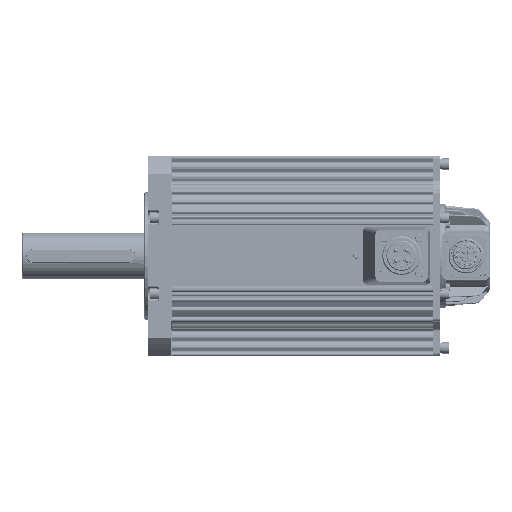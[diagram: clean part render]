
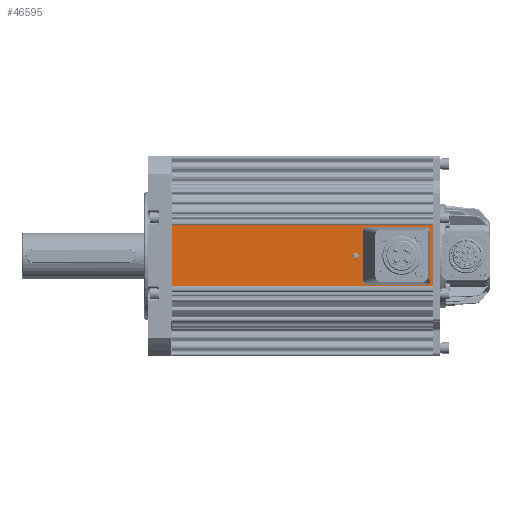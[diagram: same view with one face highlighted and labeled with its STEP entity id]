
A CAD part, top view. The second image highlights one B-rep face of the part: STEP entity #46595.
In plain terms, the highlighted planar face has unit normal (0, 0, 1) as drawn and (0, 1, 0) by its records, which use the part's own axes.
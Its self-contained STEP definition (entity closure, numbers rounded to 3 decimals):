
#32400=DIRECTION('',(-1.,0.,0.));
#32401=VECTOR('',#32400,55.);
#32402=CARTESIAN_POINT('',(27.5,89.,234.3));
#32403=LINE('',#32402,#32401);
#32404=DIRECTION('',(0.,0.,1.));
#32405=VECTOR('',#32404,234.3);
#32406=CARTESIAN_POINT('',(-27.5,89.,0.));
#32407=LINE('',#32406,#32405);
#32408=DIRECTION('',(1.,0.,0.));
#32409=VECTOR('',#32408,55.);
#32410=CARTESIAN_POINT('',(-27.5,89.,0.));
#32411=LINE('',#32410,#32409);
#32412=DIRECTION('',(0.,0.,1.));
#32413=VECTOR('',#32412,234.3);
#32414=CARTESIAN_POINT('',(27.5,89.,0.));
#32415=LINE('',#32414,#32413);
#32416=CARTESIAN_POINT('',(16.,89.,190.3));
#32417=DIRECTION('',(0.,-1.,0.));
#32418=DIRECTION('',(-1.,0.,0.));
#32419=AXIS2_PLACEMENT_3D('',#32416,#32417,#32418);
#32421=CARTESIAN_POINT('',(16.,89.,190.3));
#32422=DIRECTION('',(0.,-1.,0.));
#32423=DIRECTION('',(1.,0.,0.));
#32424=AXIS2_PLACEMENT_3D('',#32421,#32422,#32423);
#32426=CARTESIAN_POINT('',(0.,89.,190.3));
#32427=DIRECTION('',(0.,-1.,0.));
#32428=DIRECTION('',(-1.,0.,0.));
#32429=AXIS2_PLACEMENT_3D('',#32426,#32427,#32428);
#32431=CARTESIAN_POINT('',(0.,89.,190.3));
#32432=DIRECTION('',(0.,-1.,0.));
#32433=DIRECTION('',(1.,0.,0.));
#32434=AXIS2_PLACEMENT_3D('',#32431,#32432,#32433);
#32436=CARTESIAN_POINT('',(-16.,89.,190.3));
#32437=DIRECTION('',(0.,-1.,0.));
#32438=DIRECTION('',(-1.,0.,0.));
#32439=AXIS2_PLACEMENT_3D('',#32436,#32437,#32438);
#32441=CARTESIAN_POINT('',(-16.,89.,190.3));
#32442=DIRECTION('',(0.,-1.,0.));
#32443=DIRECTION('',(1.,0.,0.));
#32444=AXIS2_PLACEMENT_3D('',#32441,#32442,#32443);
#32446=CARTESIAN_POINT('',(0.,89.,210.3));
#32447=DIRECTION('',(0.,-1.,0.));
#32448=DIRECTION('',(0.,0.,1.));
#32449=AXIS2_PLACEMENT_3D('',#32446,#32447,#32448);
#32451=CARTESIAN_POINT('',(0.,89.,210.3));
#32452=DIRECTION('',(0.,-1.,0.));
#32453=DIRECTION('',(0.,0.,-1.));
#32454=AXIS2_PLACEMENT_3D('',#32451,#32452,#32453);
#32456=CARTESIAN_POINT('',(16.,89.,222.3));
#32457=DIRECTION('',(0.,-1.,0.));
#32458=DIRECTION('',(-1.,0.,0.));
#32459=AXIS2_PLACEMENT_3D('',#32456,#32457,#32458);
#32461=CARTESIAN_POINT('',(16.,89.,222.3));
#32462=DIRECTION('',(0.,-1.,0.));
#32463=DIRECTION('',(1.,0.,0.));
#32464=AXIS2_PLACEMENT_3D('',#32461,#32462,#32463);
#32466=CARTESIAN_POINT('',(-16.,89.,222.3));
#32467=DIRECTION('',(0.,-1.,0.));
#32468=DIRECTION('',(-1.,0.,0.));
#32469=AXIS2_PLACEMENT_3D('',#32466,#32467,#32468);
#32471=CARTESIAN_POINT('',(-16.,89.,222.3));
#32472=DIRECTION('',(0.,-1.,0.));
#32473=DIRECTION('',(1.,0.,0.));
#32474=AXIS2_PLACEMENT_3D('',#32471,#32472,#32473);
#32476=CARTESIAN_POINT('',(0.,89.,165.3));
#32477=DIRECTION('',(0.,1.,0.));
#32478=DIRECTION('',(0.,0.,-1.));
#32479=AXIS2_PLACEMENT_3D('',#32476,#32477,#32478);
#32481=CARTESIAN_POINT('',(0.,89.,165.3));
#32482=DIRECTION('',(0.,1.,0.));
#32483=DIRECTION('',(0.,0.,1.));
#32484=AXIS2_PLACEMENT_3D('',#32481,#32482,#32483);
#37337=CARTESIAN_POINT('',(27.5,89.,0.));
#37339=VERTEX_POINT('',#37337);
#37343=CARTESIAN_POINT('',(27.5,89.,234.3));
#37345=VERTEX_POINT('',#37343);
#39456=CARTESIAN_POINT('',(13.75,89.,190.3));
#39457=CARTESIAN_POINT('',(18.25,89.,190.3));
#39458=VERTEX_POINT('',#39456);
#39459=VERTEX_POINT('',#39457);
#39464=CARTESIAN_POINT('',(-2.25,89.,190.3));
#39465=CARTESIAN_POINT('',(2.25,89.,190.3));
#39466=VERTEX_POINT('',#39464);
#39467=VERTEX_POINT('',#39465);
#39472=CARTESIAN_POINT('',(-18.25,89.,190.3));
#39473=CARTESIAN_POINT('',(-13.75,89.,190.3));
#39474=VERTEX_POINT('',#39472);
#39475=VERTEX_POINT('',#39473);
#39480=CARTESIAN_POINT('',(0.,89.,223.8));
#39481=CARTESIAN_POINT('',(0.,89.,196.8));
#39482=VERTEX_POINT('',#39480);
#39483=VERTEX_POINT('',#39481);
#39488=CARTESIAN_POINT('',(13.75,89.,222.3));
#39489=CARTESIAN_POINT('',(18.25,89.,222.3));
#39490=VERTEX_POINT('',#39488);
#39491=VERTEX_POINT('',#39489);
#39496=CARTESIAN_POINT('',(-18.25,89.,222.3));
#39497=CARTESIAN_POINT('',(-13.75,89.,222.3));
#39498=VERTEX_POINT('',#39496);
#39499=VERTEX_POINT('',#39497);
#40020=CARTESIAN_POINT('',(-27.5,89.,0.));
#40021=CARTESIAN_POINT('',(-27.5,89.,234.3));
#40022=VERTEX_POINT('',#40020);
#40023=VERTEX_POINT('',#40021);
#40610=CARTESIAN_POINT('',(0.,89.,162.8));
#40611=CARTESIAN_POINT('',(0.,89.,167.8));
#40612=VERTEX_POINT('',#40610);
#40613=VERTEX_POINT('',#40611);
#46541=CARTESIAN_POINT('',(27.5,89.,0.));
#46542=DIRECTION('',(0.,-1.,0.));
#46543=DIRECTION('',(-1.,0.,0.));
#46544=AXIS2_PLACEMENT_3D('',#46541,#46542,#46543);
#46545=PLANE('',#46544);
#46546=ORIENTED_EDGE('',*,*,#42832,.T.);
#46547=ORIENTED_EDGE('',*,*,#46535,.F.);
#46548=ORIENTED_EDGE('',*,*,#41933,.T.);
#46550=ORIENTED_EDGE('',*,*,#46549,.T.);
#46551=EDGE_LOOP('',(#46546,#46547,#46548,#46550));
#46552=FACE_OUTER_BOUND('',#46551,.F.);
#46554=ORIENTED_EDGE('',*,*,#46553,.F.);
#46556=ORIENTED_EDGE('',*,*,#46555,.F.);
#46557=EDGE_LOOP('',(#46554,#46556));
#46558=FACE_BOUND('',#46557,.F.);
#46560=ORIENTED_EDGE('',*,*,#46559,.F.);
#46562=ORIENTED_EDGE('',*,*,#46561,.F.);
#46563=EDGE_LOOP('',(#46560,#46562));
#46564=FACE_BOUND('',#46563,.F.);
#46566=ORIENTED_EDGE('',*,*,#46565,.F.);
#46568=ORIENTED_EDGE('',*,*,#46567,.F.);
#46569=EDGE_LOOP('',(#46566,#46568));
#46570=FACE_BOUND('',#46569,.F.);
#46572=ORIENTED_EDGE('',*,*,#46571,.F.);
#46574=ORIENTED_EDGE('',*,*,#46573,.F.);
#46575=EDGE_LOOP('',(#46572,#46574));
#46576=FACE_BOUND('',#46575,.F.);
#46578=ORIENTED_EDGE('',*,*,#46577,.F.);
#46580=ORIENTED_EDGE('',*,*,#46579,.F.);
#46581=EDGE_LOOP('',(#46578,#46580));
#46582=FACE_BOUND('',#46581,.F.);
#46584=ORIENTED_EDGE('',*,*,#46583,.F.);
#46586=ORIENTED_EDGE('',*,*,#46585,.F.);
#46587=EDGE_LOOP('',(#46584,#46586));
#46588=FACE_BOUND('',#46587,.F.);
#46590=ORIENTED_EDGE('',*,*,#46589,.T.);
#46592=ORIENTED_EDGE('',*,*,#46591,.T.);
#46593=EDGE_LOOP('',(#46590,#46592));
#46594=FACE_BOUND('',#46593,.F.);
#46595=ADVANCED_FACE('',(#46552,#46558,#46564,#46570,#46576,#46582,#46588,
#46594),#46545,.F.);
#32420=CIRCLE('',#32419,2.25);
#32425=CIRCLE('',#32424,2.25);
#32430=CIRCLE('',#32429,2.25);
#32435=CIRCLE('',#32434,2.25);
#32440=CIRCLE('',#32439,2.25);
#32445=CIRCLE('',#32444,2.25);
#32450=CIRCLE('',#32449,13.5);
#32455=CIRCLE('',#32454,13.5);
#32460=CIRCLE('',#32459,2.25);
#32465=CIRCLE('',#32464,2.25);
#32470=CIRCLE('',#32469,2.25);
#32475=CIRCLE('',#32474,2.25);
#32480=CIRCLE('',#32479,2.5);
#32485=CIRCLE('',#32484,2.5);
#41933=EDGE_CURVE('',#40022,#37339,#32411,.T.);
#42832=EDGE_CURVE('',#37345,#40023,#32403,.T.);
#46535=EDGE_CURVE('',#40022,#40023,#32407,.T.);
#46549=EDGE_CURVE('',#37339,#37345,#32415,.T.);
#46553=EDGE_CURVE('',#39458,#39459,#32420,.T.);
#46555=EDGE_CURVE('',#39459,#39458,#32425,.T.);
#46559=EDGE_CURVE('',#39466,#39467,#32430,.T.);
#46561=EDGE_CURVE('',#39467,#39466,#32435,.T.);
#46565=EDGE_CURVE('',#39474,#39475,#32440,.T.);
#46567=EDGE_CURVE('',#39475,#39474,#32445,.T.);
#46571=EDGE_CURVE('',#39482,#39483,#32450,.T.);
#46573=EDGE_CURVE('',#39483,#39482,#32455,.T.);
#46577=EDGE_CURVE('',#39490,#39491,#32460,.T.);
#46579=EDGE_CURVE('',#39491,#39490,#32465,.T.);
#46583=EDGE_CURVE('',#39498,#39499,#32470,.T.);
#46585=EDGE_CURVE('',#39499,#39498,#32475,.T.);
#46589=EDGE_CURVE('',#40612,#40613,#32480,.T.);
#46591=EDGE_CURVE('',#40613,#40612,#32485,.T.);
